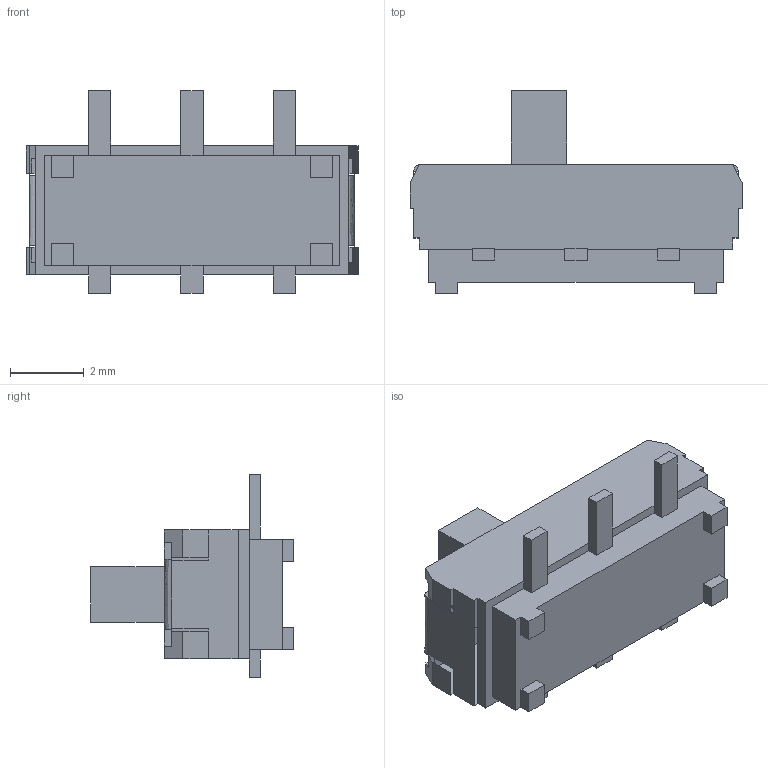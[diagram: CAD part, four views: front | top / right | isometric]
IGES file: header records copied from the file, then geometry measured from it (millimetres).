
Start section:  PTC IGES file: NSS504-012N-CAED1B.igs
Global section: file name: NSS504-012N-CAED1B.igs; native system: Pro/ENGINEER by Parametric Technology Corporation; preprocessor: 2008230; author: catherine_lee; organization: Unknown; date: 20090306.112828; units: millimetre
Bounding box: 9 x 5.5 x 5.5 mm (x, y, z)
Surface area: 173.8 mm2 (no closed solid volume)
Topology: 0 solids, 0 shells, 103 faces, 606 edges, 612 vertices
Faces by surface type: bspline 101, revolution 2
